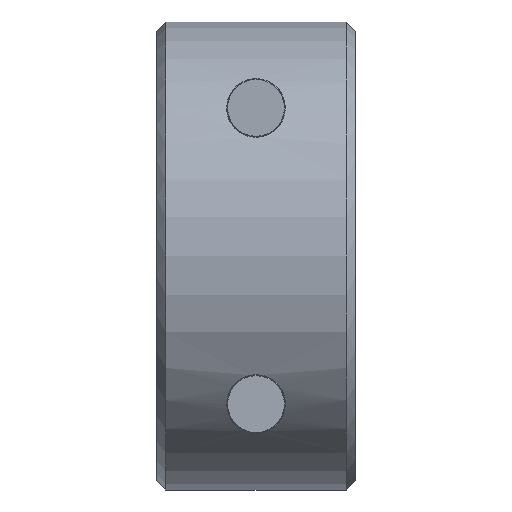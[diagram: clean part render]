
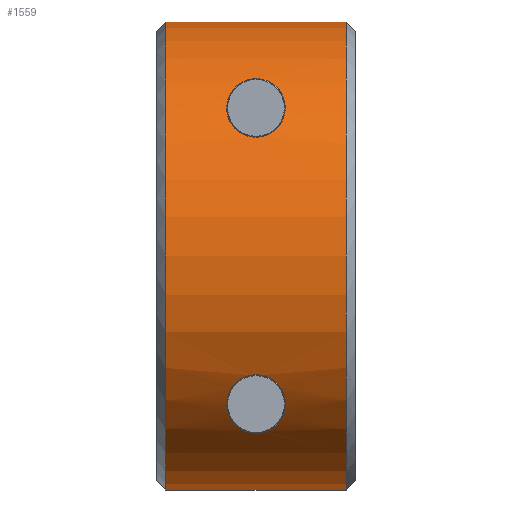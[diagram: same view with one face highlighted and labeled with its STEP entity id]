
A CAD part, front view. The second image highlights one B-rep face of the part: STEP entity #1559.
In plain terms, the highlighted cylindrical face has radius 13 mm (diameter 26 mm), a partial arc.
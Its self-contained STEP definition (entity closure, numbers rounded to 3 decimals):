
#80=LINE('',#2127,#154);
#81=LINE('',#2131,#155);
#154=VECTOR('',#1769,1000.);
#155=VECTOR('',#1772,1000.);
#228=B_SPLINE_CURVE_WITH_KNOTS('',3,(#2087,#2088,#2089,#2090,#2091,#2092,
#2093,#2094,#2095,#2096,#2097,#2098,#2099,#2100,#2101,#2102,#2103),
 .UNSPECIFIED.,.T.,.F.,(1,1,1,1,1,1,1,1,1,1,1,1,1,1,1,1,1,1,1,1,1),(-0.003,
-0.001,-0.001,0.,0.001,0.001,
0.003,0.004,0.004,0.005,
0.006,0.007,0.007,0.008,
0.009,0.01,0.011,0.012,
0.012,0.013,0.015),.UNSPECIFIED.);
#229=B_SPLINE_CURVE_WITH_KNOTS('',3,(#2106,#2107,#2108,#2109,#2110,#2111,
#2112,#2113,#2114,#2115,#2116,#2117,#2118,#2119,#2120,#2121,#2122),
 .UNSPECIFIED.,.T.,.F.,(1,1,1,1,1,1,1,1,1,1,1,1,1,1,1,1,1,1,1,1,1),(-0.003,
-0.001,-0.001,0.,0.001,0.001,
0.003,0.004,0.004,0.005,
0.006,0.007,0.007,0.008,
0.009,0.01,0.011,0.012,
0.012,0.013,0.015),.UNSPECIFIED.);
#250=ORIENTED_EDGE('',*,*,#542,.T.);
#251=ORIENTED_EDGE('',*,*,#543,.T.);
#252=ORIENTED_EDGE('',*,*,#544,.T.);
#253=ORIENTED_EDGE('',*,*,#545,.F.);
#254=ORIENTED_EDGE('',*,*,#546,.T.);
#255=ORIENTED_EDGE('',*,*,#541,.T.);
#541=EDGE_CURVE('',#687,#687,#228,.T.);
#542=EDGE_CURVE('',#688,#688,#229,.T.);
#543=EDGE_CURVE('',#689,#690,#789,.T.);
#544=EDGE_CURVE('',#690,#691,#80,.T.);
#545=EDGE_CURVE('',#692,#691,#790,.T.);
#546=EDGE_CURVE('',#692,#689,#81,.F.);
#687=VERTEX_POINT('',#2104);
#688=VERTEX_POINT('',#2123);
#689=VERTEX_POINT('',#2125);
#690=VERTEX_POINT('',#2126);
#691=VERTEX_POINT('',#2128);
#692=VERTEX_POINT('',#2130);
#789=CIRCLE('',#1638,13.);
#790=CIRCLE('',#1639,13.);
#842=EDGE_LOOP('',(#250));
#843=EDGE_LOOP('',(#251,#252,#253,#254));
#844=EDGE_LOOP('',(#255));
#940=FACE_BOUND('',#842,.T.);
#941=FACE_BOUND('',#843,.T.);
#942=FACE_BOUND('',#844,.T.);
#1039=CYLINDRICAL_SURFACE('',#1637,13.);
#1559=ADVANCED_FACE('',(#940,#941,#942),#1039,.T.);
#1637=AXIS2_PLACEMENT_3D('',#2105,#1765,#1766);
#1638=AXIS2_PLACEMENT_3D('',#2124,#1767,#1768);
#1639=AXIS2_PLACEMENT_3D('',#2129,#1770,#1771);
#1765=DIRECTION('',(1.,0.,0.));
#1766=DIRECTION('',(0.,0.,-1.));
#1767=DIRECTION('',(1.,0.,0.));
#1768=DIRECTION('',(0.,0.,-1.));
#1769=DIRECTION('',(1.,0.,0.));
#1770=DIRECTION('',(1.,0.,0.));
#1771=DIRECTION('',(0.,0.,-1.));
#1772=DIRECTION('',(1.,0.,0.));
#2087=CARTESIAN_POINT('',(-0.739,-11.145,-6.696));
#2088=CARTESIAN_POINT('',(0.001,-11.246,-6.521));
#2089=CARTESIAN_POINT('',(0.735,-11.145,-6.695));
#2090=CARTESIAN_POINT('',(1.468,-10.779,-7.288));
#2091=CARTESIAN_POINT('',(1.695,-10.185,-8.107));
#2092=CARTESIAN_POINT('',(1.524,-9.542,-8.838));
#2093=CARTESIAN_POINT('',(1.221,-9.073,-9.318));
#2094=CARTESIAN_POINT('',(0.727,-8.656,-9.702));
#2095=CARTESIAN_POINT('',(-0.001,-8.447,-9.881));
#2096=CARTESIAN_POINT('',(-0.731,-8.659,-9.7));
#2097=CARTESIAN_POINT('',(-1.222,-9.074,-9.316));
#2098=CARTESIAN_POINT('',(-1.526,-9.546,-8.834));
#2099=CARTESIAN_POINT('',(-1.694,-10.188,-8.103));
#2100=CARTESIAN_POINT('',(-1.467,-10.778,-7.289));
#2101=CARTESIAN_POINT('',(-0.739,-11.145,-6.696));
#2102=CARTESIAN_POINT('',(0.001,-11.246,-6.521));
#2103=CARTESIAN_POINT('',(0.735,-11.145,-6.695));
#2104=CARTESIAN_POINT('',(0.,-11.212,-6.579));
#2105=CARTESIAN_POINT('',(5.5,0.,0.));
#2106=CARTESIAN_POINT('',(0.739,-11.145,6.696));
#2107=CARTESIAN_POINT('',(-0.001,-11.246,6.521));
#2108=CARTESIAN_POINT('',(-0.735,-11.145,6.695));
#2109=CARTESIAN_POINT('',(-1.468,-10.779,7.288));
#2110=CARTESIAN_POINT('',(-1.695,-10.185,8.107));
#2111=CARTESIAN_POINT('',(-1.524,-9.542,8.838));
#2112=CARTESIAN_POINT('',(-1.221,-9.073,9.318));
#2113=CARTESIAN_POINT('',(-0.727,-8.656,9.702));
#2114=CARTESIAN_POINT('',(0.001,-8.447,9.881));
#2115=CARTESIAN_POINT('',(0.731,-8.659,9.7));
#2116=CARTESIAN_POINT('',(1.222,-9.074,9.316));
#2117=CARTESIAN_POINT('',(1.526,-9.546,8.834));
#2118=CARTESIAN_POINT('',(1.694,-10.188,8.103));
#2119=CARTESIAN_POINT('',(1.467,-10.778,7.289));
#2120=CARTESIAN_POINT('',(0.739,-11.145,6.696));
#2121=CARTESIAN_POINT('',(-0.001,-11.246,6.521));
#2122=CARTESIAN_POINT('',(-0.735,-11.145,6.695));
#2123=CARTESIAN_POINT('',(0.,-11.212,6.579));
#2124=CARTESIAN_POINT('',(-5.,0.,0.));
#2125=CARTESIAN_POINT('',(-5.,-1.05,12.958));
#2126=CARTESIAN_POINT('',(-5.,-1.05,-12.958));
#2127=CARTESIAN_POINT('',(5.5,-1.05,-12.958));
#2128=CARTESIAN_POINT('',(5.,-1.05,-12.958));
#2129=CARTESIAN_POINT('',(5.,0.,0.));
#2130=CARTESIAN_POINT('',(5.,-1.05,12.958));
#2131=CARTESIAN_POINT('',(5.5,-1.05,12.958));
